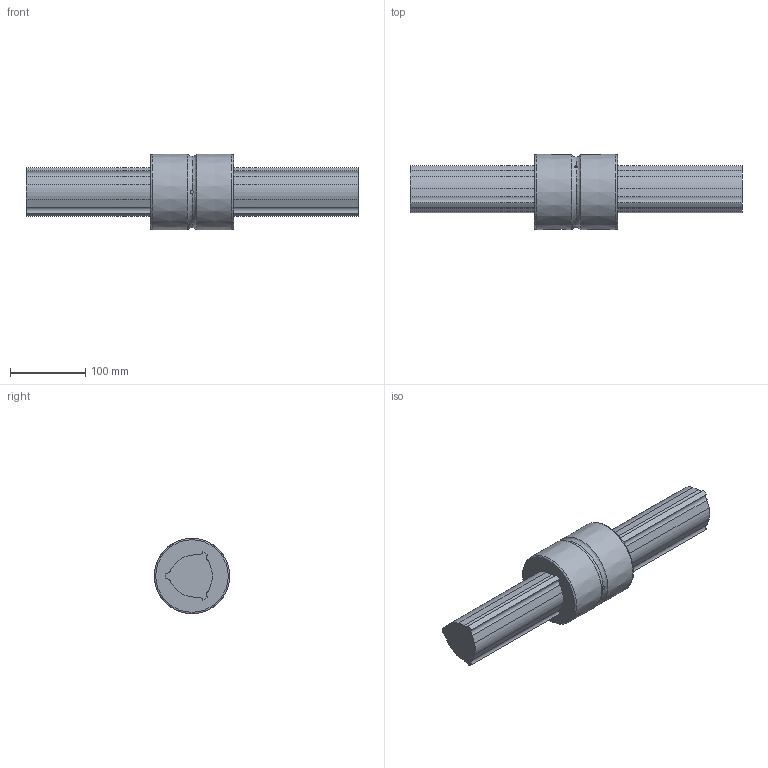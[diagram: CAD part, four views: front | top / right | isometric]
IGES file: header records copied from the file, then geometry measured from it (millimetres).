
Start section: Data from Parasolid IGES Translator 26.0.171, Copyright(c) 2006 Siemens PLM Software. All Rights Reserved.
Global section: file name: LBS70+440L(1101650).igs; native system: By Siemens PLM Incorporated; preprocessor: XPlus GENERIC/IGES 26.0.171; author: Noname; organization: Noname; date: 20240523.115838; units: millimetre
Bounding box: 440 x 100 x 100 mm (x, y, z)
Surface area: 163485.2 mm2 (no closed solid volume)
Topology: 0 solids, 0 shells, 63 faces, 344 edges, 337 vertices
Faces by surface type: revolution 41, extrusion 22
